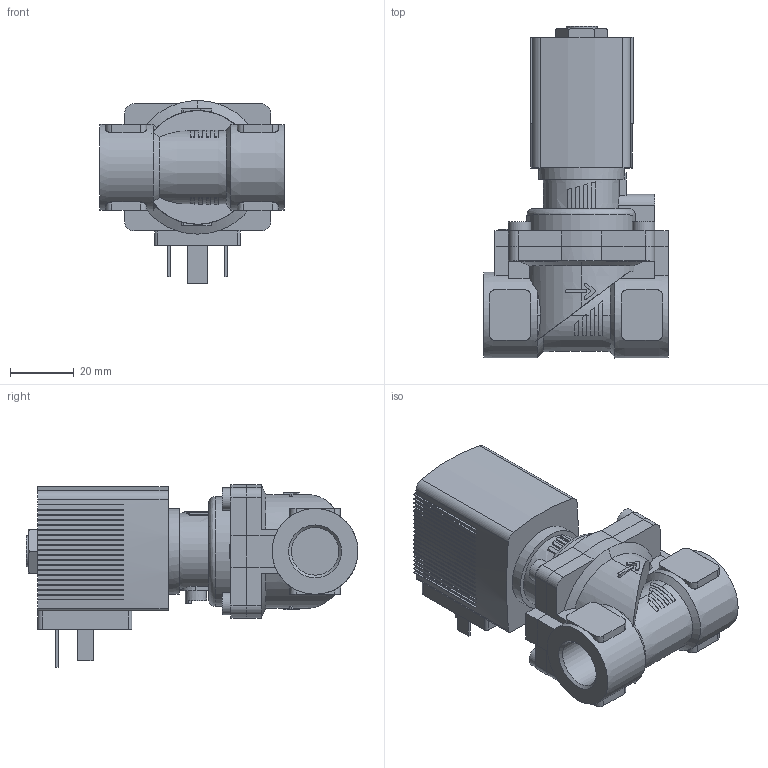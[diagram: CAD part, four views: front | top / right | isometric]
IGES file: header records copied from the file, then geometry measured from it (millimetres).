
Start section: Data from Parasolid IGES Translator 26.0.171, Copyright(c) 2006 Siemens PLM Software. All Rights Reserved.
Global section: file name: 6281-303612-2_2-Way_Solenoid_Valve__Servo-assisted__General_Purpose.igs; native system: By Siemens PLM Incorporated; preprocessor: XPlus GENERIC/IGES 26.0.171; author: Noname; organization: Noname; date: 20240514.150906; units: millimetre
Bounding box: 58 x 104.5 x 57.5 mm (x, y, z)
Surface area: 28989.5 mm2 (no closed solid volume)
Topology: 0 solids, 0 shells, 581 faces, 3236 edges, 3221 vertices
Faces by surface type: extrusion 450, revolution 131
